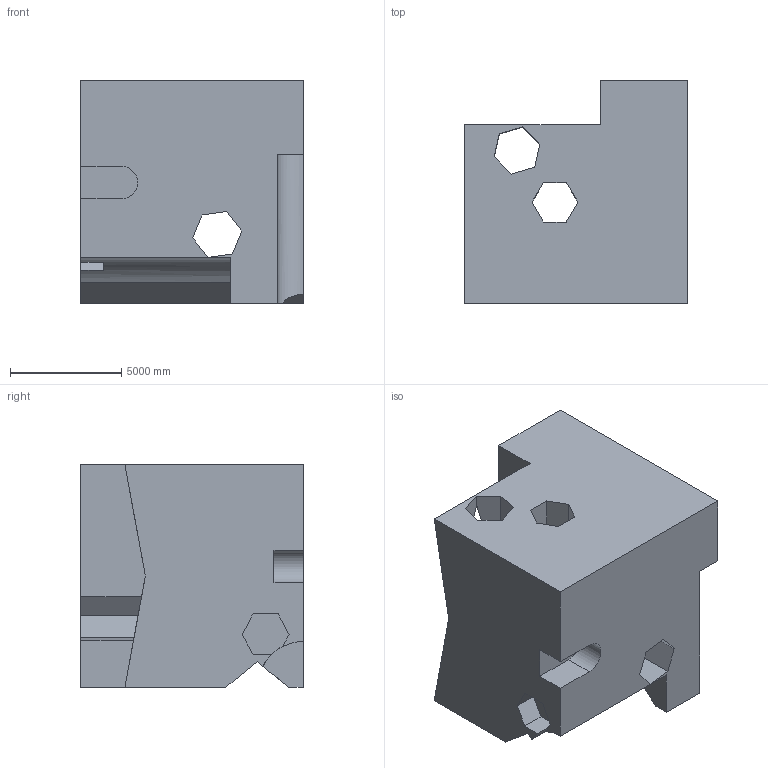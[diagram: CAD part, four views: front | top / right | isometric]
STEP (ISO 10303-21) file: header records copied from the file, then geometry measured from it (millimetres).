
FILE_DESCRIPTION (( 'STEP AP203' ), '1' );
FILE_NAME ('1870.STEP', '2022-08-19T13:45:03', ( 'user' ), ( '' ), 'SwSTEP 2.0', 'SolidWorks 2021', '' );
FILE_SCHEMA (( 'CONFIG_CONTROL_DESIGN' ));
Length unit declared in the file: centimetre
Products named in the file (1): 1870
Bounding box: 10000 x 10000 x 10000 mm (x, y, z)
Volume: 720052461843.6 mm3; surface area: 711860202.1 mm2
Topology: 1 solids, 1 shells, 48 faces, 153 edges, 102 vertices
Faces by surface type: plane 45, cylinder 3
Entity records: 1762 total; most frequent: CARTESIAN_POINT 307, ORIENTED_EDGE 306, DIRECTION 258, EDGE_CURVE 153, VECTOR 144, LINE 144, VERTEX_POINT 102, AXIS2_PLACEMENT_3D 57
